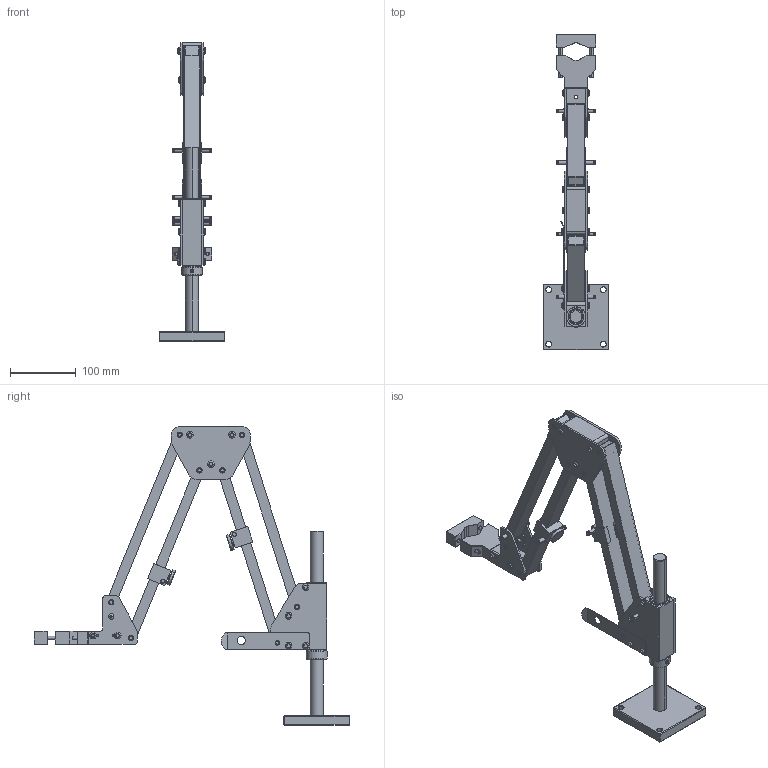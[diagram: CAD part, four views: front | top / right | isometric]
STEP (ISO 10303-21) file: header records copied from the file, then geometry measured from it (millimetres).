
FILE_DESCRIPTION (( 'STEP AP214' ), '1' );
FILE_NAME ('PA2KOL.STEP', '2014-01-07T09:00:23', ( '' ), ( '' ), 'SwSTEP 2.0', 'SolidWorks 2013', '' );
FILE_SCHEMA (( 'AUTOMOTIVE_DESIGN' ));
Length unit declared in the file: millimetre
Products named in the file (1): PA2KOL
Bounding box: 100 x 479.51 x 454.03 mm (x, y, z)
Volume: 680834 mm3; surface area: 417951.6 mm2
Topology: 62 solids, 62 shells, 1357 faces, 3264 edges, 2052 vertices
Faces by surface type: plane 570, cylinder 484, cone 169, torus 66, bspline 48, sphere 20
Entity records: 56693 total; most frequent: CARTESIAN_POINT 8556, DIRECTION 7113, ORIENTED_EDGE 6460, EDGE_CURVE 3230, AXIS2_PLACEMENT_3D 2683, VERTEX_POINT 2052, VECTOR 1747, LINE 1747
